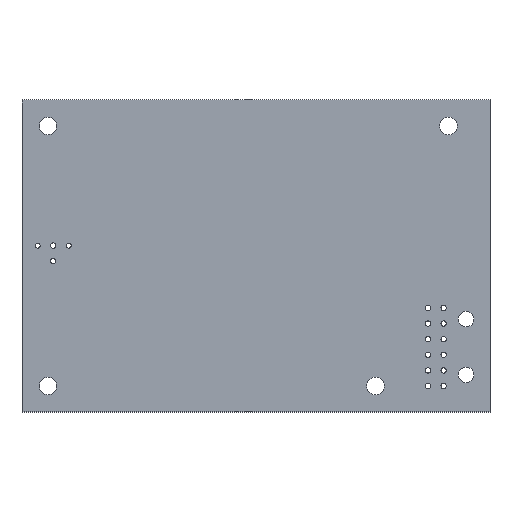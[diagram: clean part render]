
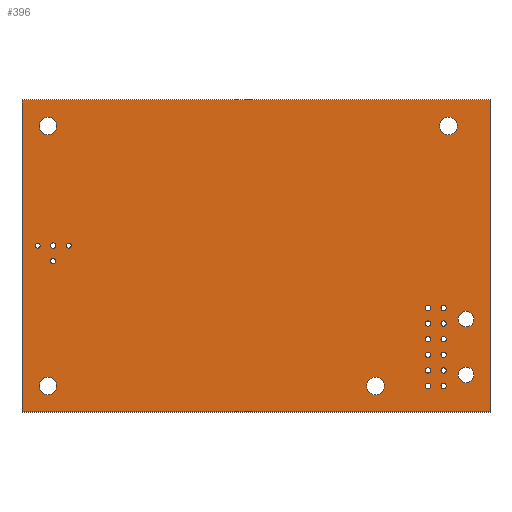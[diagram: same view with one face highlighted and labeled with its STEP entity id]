
A CAD part, top view. The second image highlights one B-rep face of the part: STEP entity #396.
In plain terms, the highlighted planar face has unit normal (0, 0, 1).
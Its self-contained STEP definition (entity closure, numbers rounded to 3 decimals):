
#42 = VERTEX_POINT('',#43);
#43 = CARTESIAN_POINT('',(90.,-60.,1.51));
#49 = EDGE_CURVE('',#42,#50,#52,.T.);
#50 = VERTEX_POINT('',#51);
#51 = CARTESIAN_POINT('',(0.,-60.,1.51));
#52 = LINE('',#53,#54);
#53 = CARTESIAN_POINT('',(90.,-60.,1.51));
#54 = VECTOR('',#55,1.);
#55 = DIRECTION('',(-1.,0.,0.));
#82 = VERTEX_POINT('',#83);
#83 = CARTESIAN_POINT('',(90.,0.,1.51));
#89 = EDGE_CURVE('',#82,#42,#90,.T.);
#90 = LINE('',#91,#92);
#91 = CARTESIAN_POINT('',(90.,0.,1.51));
#92 = VECTOR('',#93,1.);
#93 = DIRECTION('',(0.,-1.,0.));
#111 = EDGE_CURVE('',#50,#112,#114,.T.);
#112 = VERTEX_POINT('',#113);
#113 = CARTESIAN_POINT('',(0.,0.,1.51));
#114 = LINE('',#115,#116);
#115 = CARTESIAN_POINT('',(0.,-60.,1.51));
#116 = VECTOR('',#117,1.);
#117 = DIRECTION('',(0.,1.,0.));
#396 = ADVANCED_FACE('',(#397,#408,#419,#430,#441,#452,#463,#474,#485,
    #496,#507,#518,#529,#540,#551,#562,#573,#584,#595,#606,#617,#628,
    #639),#650,.T.);
#397 = FACE_BOUND('',#398,.T.);
#398 = EDGE_LOOP('',(#399,#400,#401,#407));
#399 = ORIENTED_EDGE('',*,*,#49,.F.);
#400 = ORIENTED_EDGE('',*,*,#89,.F.);
#401 = ORIENTED_EDGE('',*,*,#402,.F.);
#402 = EDGE_CURVE('',#112,#82,#403,.T.);
#403 = LINE('',#404,#405);
#404 = CARTESIAN_POINT('',(0.,0.,1.51));
#405 = VECTOR('',#406,1.);
#406 = DIRECTION('',(1.,0.,0.));
#407 = ORIENTED_EDGE('',*,*,#111,.F.);
#408 = FACE_BOUND('',#409,.T.);
#409 = EDGE_LOOP('',(#410));
#410 = ORIENTED_EDGE('',*,*,#411,.T.);
#411 = EDGE_CURVE('',#412,#412,#414,.T.);
#412 = VERTEX_POINT('',#413);
#413 = CARTESIAN_POINT('',(5.,-56.7,1.51));
#414 = CIRCLE('',#415,1.7);
#415 = AXIS2_PLACEMENT_3D('',#416,#417,#418);
#416 = CARTESIAN_POINT('',(5.,-55.,1.51));
#417 = DIRECTION('',(-0.,0.,-1.));
#418 = DIRECTION('',(-0.,-1.,0.));
#419 = FACE_BOUND('',#420,.T.);
#420 = EDGE_LOOP('',(#421));
#421 = ORIENTED_EDGE('',*,*,#422,.T.);
#422 = EDGE_CURVE('',#423,#423,#425,.T.);
#423 = VERTEX_POINT('',#424);
#424 = CARTESIAN_POINT('',(6.,-31.51,1.51));
#425 = CIRCLE('',#426,0.51);
#426 = AXIS2_PLACEMENT_3D('',#427,#428,#429);
#427 = CARTESIAN_POINT('',(6.,-31.,1.51));
#428 = DIRECTION('',(-0.,0.,-1.));
#429 = DIRECTION('',(-0.,-1.,0.));
#430 = FACE_BOUND('',#431,.T.);
#431 = EDGE_LOOP('',(#432));
#432 = ORIENTED_EDGE('',*,*,#433,.T.);
#433 = EDGE_CURVE('',#434,#434,#436,.T.);
#434 = VERTEX_POINT('',#435);
#435 = CARTESIAN_POINT('',(68.,-56.7,1.51));
#436 = CIRCLE('',#437,1.7);
#437 = AXIS2_PLACEMENT_3D('',#438,#439,#440);
#438 = CARTESIAN_POINT('',(68.,-55.,1.51));
#439 = DIRECTION('',(-0.,0.,-1.));
#440 = DIRECTION('',(-0.,-1.,0.));
#441 = FACE_BOUND('',#442,.T.);
#442 = EDGE_LOOP('',(#443));
#443 = ORIENTED_EDGE('',*,*,#444,.T.);
#444 = EDGE_CURVE('',#445,#445,#447,.T.);
#445 = VERTEX_POINT('',#446);
#446 = CARTESIAN_POINT('',(78.08,-55.51,1.51));
#447 = CIRCLE('',#448,0.51);
#448 = AXIS2_PLACEMENT_3D('',#449,#450,#451);
#449 = CARTESIAN_POINT('',(78.08,-55.,1.51));
#450 = DIRECTION('',(-0.,0.,-1.));
#451 = DIRECTION('',(-0.,-1.,0.));
#452 = FACE_BOUND('',#453,.T.);
#453 = EDGE_LOOP('',(#454));
#454 = ORIENTED_EDGE('',*,*,#455,.T.);
#455 = EDGE_CURVE('',#456,#456,#458,.T.);
#456 = VERTEX_POINT('',#457);
#457 = CARTESIAN_POINT('',(81.08,-55.51,1.51));
#458 = CIRCLE('',#459,0.51);
#459 = AXIS2_PLACEMENT_3D('',#460,#461,#462);
#460 = CARTESIAN_POINT('',(81.08,-55.,1.51));
#461 = DIRECTION('',(-0.,0.,-1.));
#462 = DIRECTION('',(-0.,-1.,0.));
#463 = FACE_BOUND('',#464,.T.);
#464 = EDGE_LOOP('',(#465));
#465 = ORIENTED_EDGE('',*,*,#466,.T.);
#466 = EDGE_CURVE('',#467,#467,#469,.T.);
#467 = VERTEX_POINT('',#468);
#468 = CARTESIAN_POINT('',(78.08,-52.51,1.51));
#469 = CIRCLE('',#470,0.51);
#470 = AXIS2_PLACEMENT_3D('',#471,#472,#473);
#471 = CARTESIAN_POINT('',(78.08,-52.,1.51));
#472 = DIRECTION('',(-0.,0.,-1.));
#473 = DIRECTION('',(-0.,-1.,0.));
#474 = FACE_BOUND('',#475,.T.);
#475 = EDGE_LOOP('',(#476));
#476 = ORIENTED_EDGE('',*,*,#477,.T.);
#477 = EDGE_CURVE('',#478,#478,#480,.T.);
#478 = VERTEX_POINT('',#479);
#479 = CARTESIAN_POINT('',(81.08,-52.51,1.51));
#480 = CIRCLE('',#481,0.51);
#481 = AXIS2_PLACEMENT_3D('',#482,#483,#484);
#482 = CARTESIAN_POINT('',(81.08,-52.,1.51));
#483 = DIRECTION('',(-0.,0.,-1.));
#484 = DIRECTION('',(-0.,-1.,0.));
#485 = FACE_BOUND('',#486,.T.);
#486 = EDGE_LOOP('',(#487));
#487 = ORIENTED_EDGE('',*,*,#488,.T.);
#488 = EDGE_CURVE('',#489,#489,#491,.T.);
#489 = VERTEX_POINT('',#490);
#490 = CARTESIAN_POINT('',(85.4,-54.35,1.51));
#491 = CIRCLE('',#492,1.5);
#492 = AXIS2_PLACEMENT_3D('',#493,#494,#495);
#493 = CARTESIAN_POINT('',(85.4,-52.85,1.51));
#494 = DIRECTION('',(-0.,0.,-1.));
#495 = DIRECTION('',(-0.,-1.,0.));
#496 = FACE_BOUND('',#497,.T.);
#497 = EDGE_LOOP('',(#498));
#498 = ORIENTED_EDGE('',*,*,#499,.T.);
#499 = EDGE_CURVE('',#500,#500,#502,.T.);
#500 = VERTEX_POINT('',#501);
#501 = CARTESIAN_POINT('',(78.08,-49.51,1.51));
#502 = CIRCLE('',#503,0.51);
#503 = AXIS2_PLACEMENT_3D('',#504,#505,#506);
#504 = CARTESIAN_POINT('',(78.08,-49.,1.51));
#505 = DIRECTION('',(-0.,0.,-1.));
#506 = DIRECTION('',(-0.,-1.,0.));
#507 = FACE_BOUND('',#508,.T.);
#508 = EDGE_LOOP('',(#509));
#509 = ORIENTED_EDGE('',*,*,#510,.T.);
#510 = EDGE_CURVE('',#511,#511,#513,.T.);
#511 = VERTEX_POINT('',#512);
#512 = CARTESIAN_POINT('',(81.08,-49.51,1.51));
#513 = CIRCLE('',#514,0.51);
#514 = AXIS2_PLACEMENT_3D('',#515,#516,#517);
#515 = CARTESIAN_POINT('',(81.08,-49.,1.51));
#516 = DIRECTION('',(-0.,0.,-1.));
#517 = DIRECTION('',(-0.,-1.,0.));
#518 = FACE_BOUND('',#519,.T.);
#519 = EDGE_LOOP('',(#520));
#520 = ORIENTED_EDGE('',*,*,#521,.T.);
#521 = EDGE_CURVE('',#522,#522,#524,.T.);
#522 = VERTEX_POINT('',#523);
#523 = CARTESIAN_POINT('',(78.08,-46.51,1.51));
#524 = CIRCLE('',#525,0.51);
#525 = AXIS2_PLACEMENT_3D('',#526,#527,#528);
#526 = CARTESIAN_POINT('',(78.08,-46.,1.51));
#527 = DIRECTION('',(-0.,0.,-1.));
#528 = DIRECTION('',(-0.,-1.,0.));
#529 = FACE_BOUND('',#530,.T.);
#530 = EDGE_LOOP('',(#531));
#531 = ORIENTED_EDGE('',*,*,#532,.T.);
#532 = EDGE_CURVE('',#533,#533,#535,.T.);
#533 = VERTEX_POINT('',#534);
#534 = CARTESIAN_POINT('',(81.08,-46.51,1.51));
#535 = CIRCLE('',#536,0.51);
#536 = AXIS2_PLACEMENT_3D('',#537,#538,#539);
#537 = CARTESIAN_POINT('',(81.08,-46.,1.51));
#538 = DIRECTION('',(-0.,0.,-1.));
#539 = DIRECTION('',(-0.,-1.,0.));
#540 = FACE_BOUND('',#541,.T.);
#541 = EDGE_LOOP('',(#542));
#542 = ORIENTED_EDGE('',*,*,#543,.T.);
#543 = EDGE_CURVE('',#544,#544,#546,.T.);
#544 = VERTEX_POINT('',#545);
#545 = CARTESIAN_POINT('',(78.08,-43.51,1.51));
#546 = CIRCLE('',#547,0.51);
#547 = AXIS2_PLACEMENT_3D('',#548,#549,#550);
#548 = CARTESIAN_POINT('',(78.08,-43.,1.51));
#549 = DIRECTION('',(-0.,0.,-1.));
#550 = DIRECTION('',(-0.,-1.,0.));
#551 = FACE_BOUND('',#552,.T.);
#552 = EDGE_LOOP('',(#553));
#553 = ORIENTED_EDGE('',*,*,#554,.T.);
#554 = EDGE_CURVE('',#555,#555,#557,.T.);
#555 = VERTEX_POINT('',#556);
#556 = CARTESIAN_POINT('',(81.08,-43.51,1.51));
#557 = CIRCLE('',#558,0.51);
#558 = AXIS2_PLACEMENT_3D('',#559,#560,#561);
#559 = CARTESIAN_POINT('',(81.08,-43.,1.51));
#560 = DIRECTION('',(-0.,0.,-1.));
#561 = DIRECTION('',(-0.,-1.,0.));
#562 = FACE_BOUND('',#563,.T.);
#563 = EDGE_LOOP('',(#564));
#564 = ORIENTED_EDGE('',*,*,#565,.T.);
#565 = EDGE_CURVE('',#566,#566,#568,.T.);
#566 = VERTEX_POINT('',#567);
#567 = CARTESIAN_POINT('',(85.4,-43.65,1.51));
#568 = CIRCLE('',#569,1.5);
#569 = AXIS2_PLACEMENT_3D('',#570,#571,#572);
#570 = CARTESIAN_POINT('',(85.4,-42.15,1.51));
#571 = DIRECTION('',(-0.,0.,-1.));
#572 = DIRECTION('',(-0.,-1.,0.));
#573 = FACE_BOUND('',#574,.T.);
#574 = EDGE_LOOP('',(#575));
#575 = ORIENTED_EDGE('',*,*,#576,.T.);
#576 = EDGE_CURVE('',#577,#577,#579,.T.);
#577 = VERTEX_POINT('',#578);
#578 = CARTESIAN_POINT('',(78.08,-40.51,1.51));
#579 = CIRCLE('',#580,0.51);
#580 = AXIS2_PLACEMENT_3D('',#581,#582,#583);
#581 = CARTESIAN_POINT('',(78.08,-40.,1.51));
#582 = DIRECTION('',(-0.,0.,-1.));
#583 = DIRECTION('',(-0.,-1.,0.));
#584 = FACE_BOUND('',#585,.T.);
#585 = EDGE_LOOP('',(#586));
#586 = ORIENTED_EDGE('',*,*,#587,.T.);
#587 = EDGE_CURVE('',#588,#588,#590,.T.);
#588 = VERTEX_POINT('',#589);
#589 = CARTESIAN_POINT('',(81.08,-40.51,1.51));
#590 = CIRCLE('',#591,0.51);
#591 = AXIS2_PLACEMENT_3D('',#592,#593,#594);
#592 = CARTESIAN_POINT('',(81.08,-40.,1.51));
#593 = DIRECTION('',(-0.,0.,-1.));
#594 = DIRECTION('',(-0.,-1.,0.));
#595 = FACE_BOUND('',#596,.T.);
#596 = EDGE_LOOP('',(#597));
#597 = ORIENTED_EDGE('',*,*,#598,.T.);
#598 = EDGE_CURVE('',#599,#599,#601,.T.);
#599 = VERTEX_POINT('',#600);
#600 = CARTESIAN_POINT('',(3.,-28.47,1.51));
#601 = CIRCLE('',#602,0.47);
#602 = AXIS2_PLACEMENT_3D('',#603,#604,#605);
#603 = CARTESIAN_POINT('',(3.,-28.,1.51));
#604 = DIRECTION('',(-0.,0.,-1.));
#605 = DIRECTION('',(-0.,-1.,0.));
#606 = FACE_BOUND('',#607,.T.);
#607 = EDGE_LOOP('',(#608));
#608 = ORIENTED_EDGE('',*,*,#609,.T.);
#609 = EDGE_CURVE('',#610,#610,#612,.T.);
#610 = VERTEX_POINT('',#611);
#611 = CARTESIAN_POINT('',(6.,-28.51,1.51));
#612 = CIRCLE('',#613,0.51);
#613 = AXIS2_PLACEMENT_3D('',#614,#615,#616);
#614 = CARTESIAN_POINT('',(6.,-28.,1.51));
#615 = DIRECTION('',(-0.,0.,-1.));
#616 = DIRECTION('',(-0.,-1.,0.));
#617 = FACE_BOUND('',#618,.T.);
#618 = EDGE_LOOP('',(#619));
#619 = ORIENTED_EDGE('',*,*,#620,.T.);
#620 = EDGE_CURVE('',#621,#621,#623,.T.);
#621 = VERTEX_POINT('',#622);
#622 = CARTESIAN_POINT('',(9.,-28.47,1.51));
#623 = CIRCLE('',#624,0.47);
#624 = AXIS2_PLACEMENT_3D('',#625,#626,#627);
#625 = CARTESIAN_POINT('',(9.,-28.,1.51));
#626 = DIRECTION('',(-0.,0.,-1.));
#627 = DIRECTION('',(-0.,-1.,0.));
#628 = FACE_BOUND('',#629,.T.);
#629 = EDGE_LOOP('',(#630));
#630 = ORIENTED_EDGE('',*,*,#631,.T.);
#631 = EDGE_CURVE('',#632,#632,#634,.T.);
#632 = VERTEX_POINT('',#633);
#633 = CARTESIAN_POINT('',(5.,-6.7,1.51));
#634 = CIRCLE('',#635,1.7);
#635 = AXIS2_PLACEMENT_3D('',#636,#637,#638);
#636 = CARTESIAN_POINT('',(5.,-5.,1.51));
#637 = DIRECTION('',(-0.,0.,-1.));
#638 = DIRECTION('',(-0.,-1.,0.));
#639 = FACE_BOUND('',#640,.T.);
#640 = EDGE_LOOP('',(#641));
#641 = ORIENTED_EDGE('',*,*,#642,.T.);
#642 = EDGE_CURVE('',#643,#643,#645,.T.);
#643 = VERTEX_POINT('',#644);
#644 = CARTESIAN_POINT('',(82.,-6.7,1.51));
#645 = CIRCLE('',#646,1.7);
#646 = AXIS2_PLACEMENT_3D('',#647,#648,#649);
#647 = CARTESIAN_POINT('',(82.,-5.,1.51));
#648 = DIRECTION('',(-0.,0.,-1.));
#649 = DIRECTION('',(-0.,-1.,0.));
#650 = PLANE('',#651);
#651 = AXIS2_PLACEMENT_3D('',#652,#653,#654);
#652 = CARTESIAN_POINT('',(0.,0.,1.51));
#653 = DIRECTION('',(0.,0.,1.));
#654 = DIRECTION('',(1.,0.,-0.));
